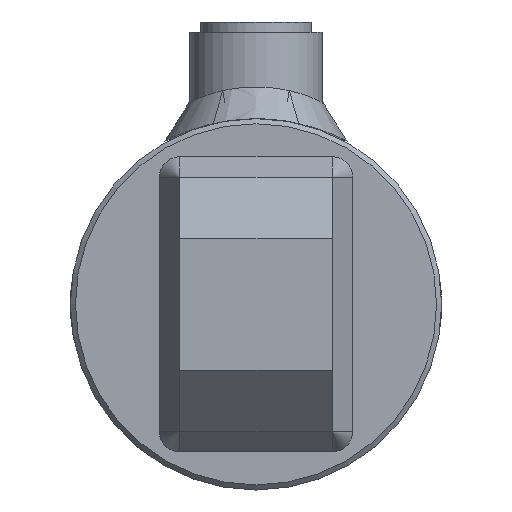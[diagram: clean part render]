
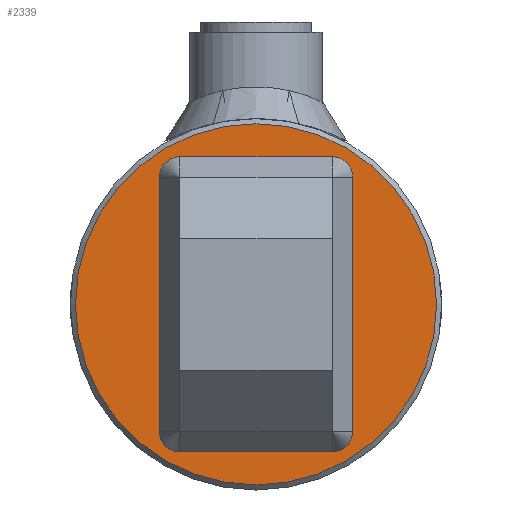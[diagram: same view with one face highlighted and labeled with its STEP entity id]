
A CAD part, left-side view. The second image highlights one B-rep face of the part: STEP entity #2339.
In plain terms, the highlighted planar face has unit normal (-1, 0, 0).
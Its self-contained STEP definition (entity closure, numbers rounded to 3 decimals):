
#2339 = ADVANCED_FACE( '', ( #5782 ), #5783, .T. );
#5782 = FACE_OUTER_BOUND( '', #7287, .T. );
#5783 = PLANE( '', #7288 );
#7287 = EDGE_LOOP( '', ( #7989 ) );
#7288 = AXIS2_PLACEMENT_3D( '', #7990, #7991, #7992 );
#7989 = ORIENTED_EDGE( '', *, *, #8986, .T. );
#7990 = CARTESIAN_POINT( '', ( -12., 0., 0. ) );
#7991 = DIRECTION( '', ( -1., 0., 0. ) );
#7992 = DIRECTION( '', ( 0., -1., 0. ) );
#8986 = EDGE_CURVE( '', #10937, #10937, #10938, .T. );
#10937 = VERTEX_POINT( '', #11873 );
#10938 = CIRCLE( '', #11874, 35.5 );
#11873 = CARTESIAN_POINT( '', ( -12., -35.5, 0. ) );
#11874 = AXIS2_PLACEMENT_3D( '', #12051, #12052, #12053 );
#12051 = CARTESIAN_POINT( '', ( -12., 0., 0. ) );
#12052 = DIRECTION( '', ( -1., 0., 0. ) );
#12053 = DIRECTION( '', ( 0., -1., 0. ) );
